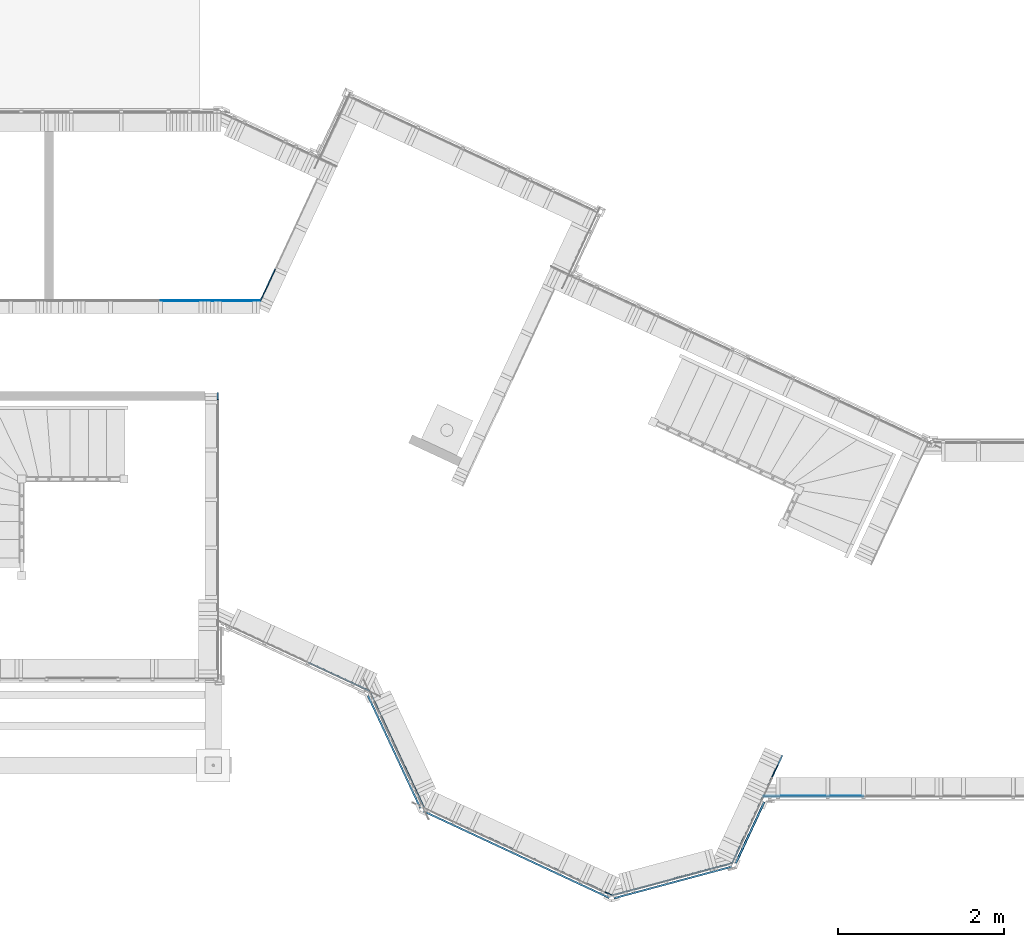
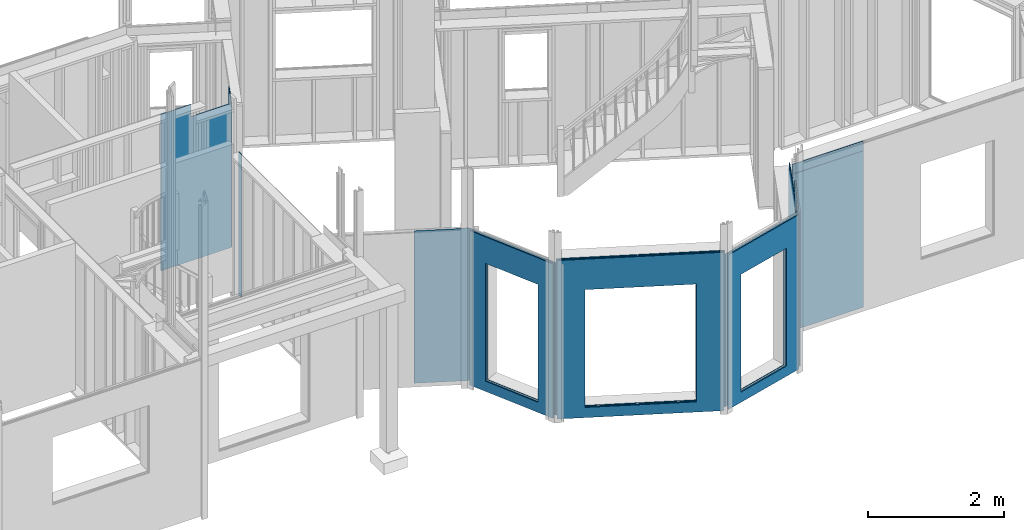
# One storey, part 24 of 34: 19 plates.
"""IFC2X3 building model written with IfcOpenShell, lengths in metres."""

from ifc_helpers import new_model, si_unit, direction, frame, origin_with_axes, place, context, subcontext, project, spatial, faceted_brep, material, element, save


model = new_model("IFC2X3")

# Units and contexts
model_context = context("Model", 3, precision=1e-06, world=origin_with_axes(), true_north=direction((0.0, 1.0, 0.0)))
body_context = subcontext(model_context, "Body", "Model", "MODEL_VIEW")
ifc_project = project(units=[si_unit("LENGTHUNIT", "METRE"), si_unit("AREAUNIT", "SQUARE_METRE"), si_unit("VOLUMEUNIT", "CUBIC_METRE"), si_unit("PLANEANGLEUNIT", "RADIAN")], contexts=[model_context])

# Site, building, storey
site_placement = place(None, origin_with_axes())
site = spatial("IfcSite", under=ifc_project, at=site_placement, CompositionType="ELEMENT")
building_placement = place(site_placement, origin_with_axes())
building = spatial("IfcBuilding", under=site, at=building_placement, Name="Building 1", CompositionType="ELEMENT")
storey_placement = place(building_placement, origin_with_axes())
storey = spatial("IfcBuildingStorey", under=building, at=storey_placement, Name="Rez de chaussée", CompositionType="ELEMENT", Elevation=0.0)

# Plates
ifc_material_1 = material(Name="OSB")
plate_1_placement = place(storey_placement, frame((11.4015713, -1.4854795, 0.005), z_axis=(-0.4226183, -0.9063078, 0.0), x_axis=(0.0, 0.0, 1.0)))
element("IfcPlate", 1, at=plate_1_placement, inside=storey, material=ifc_material_1, Name="Panneau de contreventement MFP", context=body_context, shape_type="Brep", body=[
    faceted_brep([(0.0, 0.0438189, -0.006), (0.0, 0.0438189, 0.006), (2.8, 0.0438189, 0.006), (2.8, 0.0438189, -0.006), (2.8, -0.0438189, -0.006), (0.0, -0.0438189, -0.006), (2.8, -0.0438189, 0.006), (0.0, -0.0438189, 0.006)], [[[0, 1, 2, 3]], [[0, 3, 4, 5]], [[3, 2, 6, 4]], [[2, 1, 7, 6]], [[4, 6, 7, 5]], [[1, 0, 5, 7]]]),
])
plate_2_placement = place(storey_placement, frame((13.8708032, -0.31422, 0.005), z_axis=(0.0, -1.0, 0.0), x_axis=(0.0, 0.0, 1.0)))
element("IfcPlate", 2, at=plate_2_placement, inside=storey, material=ifc_material_1, Name="Panneau de contreventement MFP", context=body_context, shape_type="Brep", body=[
    faceted_brep([(2.8, 0.598, 0.006), (2.8, -0.598, 0.006), (2.8, -0.598, -0.006), (2.8, 0.598, -0.006), (0.0, -0.598, 0.006), (0.0, -0.598, -0.006), (0.0, 0.598, 0.006), (0.0, 0.598, -0.006)], [[[0, 1, 2, 3]], [[2, 1, 4, 5]], [[1, 0, 6, 4]], [[0, 3, 7, 6]], [[5, 4, 6, 7]], [[3, 2, 5, 7]]]),
])
plate_3_placement = place(storey_placement, frame((8.1629561, 1.1235811, 0.005), z_axis=(-0.4226183, -0.9063078, 0.0), x_axis=(0.0, 0.0, 1.0)))
element("IfcPlate", 3, at=plate_3_placement, inside=storey, material=ifc_material_1, Name="Panneau de contreventement MFP", context=body_context, shape_type="Brep", body=[
    faceted_brep([(2.73, -0.4027481, 0.006), (2.73, -0.4027481, -0.006), (2.73, 0.4027481, -0.006), (2.73, 0.4027481, 0.006), (0.0, -0.4027481, -0.006), (0.0, 0.4027481, -0.006), (0.0, -0.4027481, 0.006), (0.0, 0.4027481, 0.006)], [[[0, 1, 2, 3]], [[2, 1, 4, 5]], [[1, 0, 6, 4]], [[0, 3, 7, 6]], [[7, 5, 4, 6]], [[3, 2, 5, 7]]]),
])
plate_4_placement = place(storey_placement, frame((9.1109155, -0.293437, 0.005), z_axis=(-0.9063078, -0.4226183, 0.0), x_axis=(0.0, 0.0, 1.0)))
element("IfcPlate", 4, at=plate_4_placement, inside=storey, material=ifc_material_1, Name="Panneau de contreventement MFP", context=body_context, shape_type="Brep", body=[
    faceted_brep([(2.73, -0.1724997, 0.006), (2.73, -0.1724997, -0.006), (2.73, 0.1724997, -0.006), (2.73, 0.1724997, 0.006), (0.0, -0.1724997, -0.006), (0.0, 0.1724997, -0.006), (0.147, 0.1724997, -0.006), (0.147, 0.1039135, -0.006), (2.255, 0.1039135, -0.006), (2.255, 0.1724997, -0.006), (0.0, -0.1724997, 0.006), (0.147, 0.1039135, 0.006), (2.255, 0.1039135, 0.006), (2.255, 0.1724997, 0.006), (0.147, 0.1724997, 0.006), (0.0, 0.1724997, 0.006)], [[[0, 1, 2, 3]], [[2, 1, 4, 5, 6, 7, 8, 9]], [[1, 0, 10, 4]], [[11, 12, 8, 7]], [[13, 9, 8, 12]], [[6, 14, 11, 7]], [[15, 5, 4, 10]], [[14, 6, 5, 15]], [[0, 3, 13, 12, 11, 14, 15, 10]], [[3, 2, 9, 13]]]),
])
plate_5_placement = place(storey_placement, frame((12.7452721, -1.1560491, 0.005), z_axis=(0.258819, -0.9659258, 0.0), x_axis=(0.0, 0.0, 1.0)))
element("IfcPlate", 5, at=plate_5_placement, inside=storey, material=ifc_material_1, Name="Panneau de contreventement MFP", context=body_context, shape_type="Brep", body=[
    faceted_brep([(2.73, 0.1457542, -0.006), (2.73, 0.1457542, 0.006), (2.73, -0.1457542, 0.006), (2.73, -0.1457542, -0.006), (2.255, 0.1457542, 0.006), (2.255, 0.129341, 0.006), (0.147, 0.129341, 0.006), (0.147, 0.1457542, 0.006), (0.0, 0.1457542, 0.006), (0.0, -0.1457542, 0.006), (2.255, 0.1457542, -0.006), (0.0, 0.1457542, -0.006), (0.0, -0.1457542, -0.006), (2.255, 0.129341, -0.006), (0.147, 0.129341, -0.006), (0.147, 0.1457542, -0.006)], [[[0, 1, 2, 3]], [[2, 1, 4, 5, 6, 7, 8, 9]], [[1, 0, 10, 4]], [[8, 11, 12, 9]], [[3, 2, 9, 12]], [[6, 5, 13, 14]], [[4, 10, 13, 5]], [[15, 7, 6, 14]], [[0, 3, 12, 11, 15, 14, 13, 10]], [[7, 15, 11, 8]]]),
])
plate_6_placement = place(storey_placement, frame((7.3070254, 5.8343805, 0.005), z_axis=(-0.9063078, 0.4226183, 0.0), x_axis=(0.0, 0.0, 1.0)))
element("IfcPlate", 6, at=plate_6_placement, inside=storey, material=ifc_material_1, Name="Panneau de contreventement MFP", context=body_context, shape_type="Brep", body=[
    faceted_brep([(0.0, 0.2093093, -0.006), (0.0, 0.2093093, 0.006), (2.58, 0.2093093, 0.006), (2.58, 0.2093093, -0.006), (2.58, -0.2093093, -0.006), (0.0, -0.2093093, -0.006), (0.0, -0.2093093, 0.006), (2.58, -0.2093093, 0.006)], [[[0, 1, 2, 3]], [[0, 3, 4, 5]], [[1, 0, 5, 6]], [[3, 2, 7, 4]], [[2, 1, 6, 7]], [[4, 7, 6, 5]]]),
])
plate_7_placement = place(storey_placement, frame((10.8162606, -1.2125446, 0.005), z_axis=(-0.4226183, -0.9063078, 0.0), x_axis=(0.0, 0.0, 1.0)))
element("IfcPlate", 7, at=plate_7_placement, inside=storey, material=ifc_material_1, Name="Panneau de contreventement MFP", context=body_context, shape_type="Brep", body=[
    faceted_brep([(2.8, -0.598, -0.006), (2.8, -0.598, 0.006), (0.0, -0.598, 0.006), (0.0, -0.598, -0.006), (0.0, 0.598, -0.006), (0.147, 0.598, -0.006), (0.147, -0.2659405, -0.006), (2.255, -0.2659405, -0.006), (2.255, 0.598, -0.006), (2.8, 0.598, -0.006), (0.0, 0.598, 0.006), (2.255, 0.598, 0.006), (2.8, 0.598, 0.006), (2.255, -0.2659405, 0.006), (0.147, -0.2659405, 0.006), (0.147, 0.598, 0.006)], [[[0, 1, 2, 3]], [[4, 5, 6, 7, 8, 9, 0, 3]], [[10, 4, 3, 2]], [[8, 11, 12, 9]], [[1, 0, 9, 12]], [[11, 8, 7, 13]], [[14, 13, 7, 6]], [[15, 10, 2, 1, 12, 11, 13, 14]], [[5, 15, 14, 6]], [[15, 5, 4, 10]]]),
])
plate_8_placement = place(storey_placement, frame((9.7286912, -0.7054027, 0.005), z_axis=(-0.4226183, -0.9063078, 0.0), x_axis=(0.0, 0.0, 1.0)))
element("IfcPlate", 8, at=plate_8_placement, inside=storey, material=ifc_material_1, Name="Panneau de contreventement MFP", context=body_context, shape_type="Brep", body=[
    faceted_brep([(2.255, 0.1740595, -0.006), (0.147, 0.1740595, -0.006), (0.147, -0.598, -0.006), (0.0, -0.598, -0.006), (0.0, 0.598, -0.006), (2.8, 0.598, -0.006), (2.8, -0.598, -0.006), (2.255, -0.598, -0.006), (0.147, -0.598, 0.006), (0.0, -0.598, 0.006), (0.147, 0.1740595, 0.006), (0.0, 0.598, 0.006), (2.255, 0.1740595, 0.006), (2.255, -0.598, 0.006), (2.8, -0.598, 0.006), (2.8, 0.598, 0.006)], [[[0, 1, 2, 3, 4, 5, 6, 7]], [[2, 8, 9, 3]], [[8, 2, 1, 10]], [[3, 9, 11, 4]], [[9, 8, 10, 12, 13, 14, 15, 11]], [[15, 5, 4, 11]], [[12, 10, 1, 0]], [[7, 13, 12, 0]], [[14, 6, 5, 15]], [[13, 7, 6, 14]]]),
])
ifc_material_2 = material(Name="Mélèze")
plate_9_placement = place(storey_placement, frame((8.8264403, 0.2184247, -0.03), z_axis=(-0.9063078, -0.4226183, 0.0), x_axis=(0.0, 0.0, 1.0)))
element("IfcPlate", 9, at=plate_9_placement, inside=storey, material=ifc_material_2, Name="Bardage", context=body_context, shape_type="Brep", body=[
    faceted_brep([(2.765, 0.7466284, 0.0105), (2.765, -0.7466284, 0.0105), (2.765, -0.7466284, -0.0105), (2.765, 0.7466284, -0.0105), (0.0, -0.7466284, 0.0105), (0.0, -0.7466284, -0.0105), (0.0, 0.7466284, 0.0105), (2.29, -0.4802152, 0.0105), (0.182, -0.4802152, 0.0105), (0.182, 0.4597848, 0.0105), (2.29, 0.4597848, 0.0105), (0.0, 0.7466284, -0.0105), (0.182, 0.4597848, -0.0105), (0.182, -0.4802152, -0.0105), (2.29, -0.4802152, -0.0105), (2.29, 0.4597848, -0.0105)], [[[0, 1, 2, 3]], [[2, 1, 4, 5]], [[1, 0, 6, 4], [7, 8, 9, 10]], [[3, 2, 5, 11], [12, 13, 14, 15]], [[4, 6, 11, 5]], [[10, 9, 12, 15]], [[7, 10, 15, 14]], [[8, 7, 14, 13]], [[9, 8, 13, 12]], [[0, 3, 11, 6]]]),
])
plate_10_placement = place(storey_placement, frame((6.702, 4.4932372, 0.005), z_axis=(1.0, 0.0, 0.0), x_axis=(0.0, 0.0, 1.0)))
element("IfcPlate", 10, at=plate_10_placement, inside=storey, material=ifc_material_1, Name="Panneau de contreventement MFP", context=body_context, shape_type="Brep", body=[
    faceted_brep([(0.0, 0.0417628, -0.006), (0.0, 0.0417628, 0.006), (2.56, 0.0417628, 0.006), (2.56, 0.0417628, -0.006), (2.56, -0.0417628, 0.006), (2.56, -0.0417628, -0.006), (0.0, -0.0417628, 0.006), (0.0, -0.0417628, -0.006)], [[[0, 1, 2, 3]], [[3, 2, 4, 5]], [[2, 1, 6, 4]], [[1, 0, 7, 6]], [[0, 3, 5, 7]], [[5, 4, 6, 7]]]),
])
plate_11_placement = place(storey_placement, frame((13.1049522, -0.7521779, -0.03), z_axis=(0.9063078, -0.4226183, 0.0), x_axis=(0.0, 0.0, 1.0)))
element("IfcPlate", 11, at=plate_11_placement, inside=storey, material=ifc_material_2, Name="Bardage", context=body_context, shape_type="Brep", body=[
    faceted_brep([(2.765, -0.4047536, -0.0105), (2.765, 0.4047536, -0.0105), (2.765, 0.4047536, 0.0105), (2.765, -0.4047536, 0.0105), (0.0, 0.4047536, -0.0105), (0.0, 0.4047536, 0.0105), (0.0, -0.4047536, -0.0105), (0.0, -0.4047536, 0.0105)], [[[0, 1, 2, 3]], [[2, 1, 4, 5]], [[1, 0, 6, 4]], [[3, 2, 5, 7]], [[6, 7, 5, 4]], [[0, 3, 7, 6]]]),
])
plate_12_placement = place(storey_placement, frame((13.8708032, -0.31422, 2.809), z_axis=(0.0, -1.0, 0.0), x_axis=(0.0, 0.0, 1.0)))
element("IfcPlate", 12, at=plate_12_placement, inside=storey, material=ifc_material_1, Name="Panneau de contreventement MFP", context=body_context, shape_type="Brep", body=[
    faceted_brep([(0.0, 0.598, 0.006), (0.0, 0.598, -0.006), (0.0, -0.598, -0.006), (0.0, -0.598, 0.006), (0.171, 0.598, -0.006), (0.171, -0.598, -0.006), (0.171, 0.598, 0.006), (0.171, -0.598, 0.006)], [[[0, 1, 2, 3]], [[2, 1, 4, 5]], [[1, 0, 6, 4]], [[0, 3, 7, 6]], [[7, 5, 4, 6]], [[3, 2, 5, 7]]]),
])
plate_13_placement = place(storey_placement, frame((12.1764576, -1.3514264, -0.03), z_axis=(0.258819, -0.9659258, 0.0), x_axis=(0.0, 0.0, 1.0)))
element("IfcPlate", 13, at=plate_13_placement, inside=storey, material=ifc_material_2, Name="Bardage", context=body_context, shape_type="Brep", body=[
    faceted_brep([(2.765, 0.7307542, 0.0105), (2.765, -0.7307542, 0.0105), (2.765, -0.7307542, -0.0105), (2.765, 0.7307542, -0.0105), (0.0, -0.7307542, 0.0105), (0.0, -0.7307542, -0.0105), (0.0, 0.7307542, 0.0105), (2.29, -0.470659, 0.0105), (0.182, -0.470659, 0.0105), (0.182, 0.469341, 0.0105), (2.29, 0.469341, 0.0105), (0.0, 0.7307542, -0.0105), (2.29, -0.470659, -0.0105), (2.29, 0.469341, -0.0105), (0.182, 0.469341, -0.0105), (0.182, -0.470659, -0.0105)], [[[0, 1, 2, 3]], [[2, 1, 4, 5]], [[1, 0, 6, 4], [7, 8, 9, 10]], [[3, 2, 5, 11], [12, 13, 14, 15]], [[4, 6, 11, 5]], [[10, 9, 14, 13]], [[7, 10, 13, 12]], [[8, 7, 12, 15]], [[9, 8, 15, 14]], [[0, 3, 11, 6]]]),
])
plate_14_placement = place(storey_placement, frame((6.6151297, 5.6412176, 0.005), z_axis=(0.0, 1.0, 0.0), x_axis=(0.0, 0.0, 1.0)))
element("IfcPlate", 14, at=plate_14_placement, inside=storey, material=ifc_material_1, Name="Panneau de contreventement MFP", context=body_context, shape_type="Brep", body=[
    faceted_brep([(2.8, -0.0891297, -0.006), (2.58, -0.0891297, -0.006), (2.58, -0.0891297, 0.006), (2.8, -0.0891297, 0.006), (2.8, -0.598, 0.006), (2.8, -0.598, -0.006), (2.58, 0.598, 0.006), (2.58, 0.598, -0.006), (0.0, 0.598, -0.006), (0.0, 0.598, 0.006), (0.0, -0.598, 0.006), (0.0, -0.598, -0.006)], [[[0, 1, 2, 3]], [[0, 3, 4, 5]], [[6, 7, 8, 9]], [[3, 2, 6, 9, 10, 4]], [[6, 2, 1, 7]], [[11, 10, 9, 8]], [[1, 0, 5, 11, 8, 7]], [[5, 4, 10, 11]]]),
])
plate_15_placement = place(storey_placement, frame((10.2941975, -1.0148928, -0.03), z_axis=(-0.4226183, -0.9063078, 0.0), x_axis=(0.0, 0.0, 1.0)))
element("IfcPlate", 15, at=plate_15_placement, inside=storey, material=ifc_material_2, Name="Bardage", context=body_context, shape_type="Brep", body=[
    faceted_brep([(2.835, 1.2313189, 0.0105), (2.835, 1.2313189, -0.0105), (0.0, 1.2313189, -0.0105), (0.0, 1.2313189, 0.0105), (2.835, -1.2313189, 0.0105), (0.0, -1.2313189, 0.0105), (2.29, -0.8226215, 0.0105), (0.182, -0.8226215, 0.0105), (0.182, 0.8173785, 0.0105), (2.29, 0.8173785, 0.0105), (2.835, -1.2313189, -0.0105), (0.0, -1.2313189, -0.0105), (2.29, -0.8226215, -0.0105), (2.29, 0.8173785, -0.0105), (0.182, 0.8173785, -0.0105), (0.182, -0.8226215, -0.0105)], [[[0, 1, 2, 3]], [[4, 0, 3, 5], [6, 7, 8, 9]], [[10, 4, 5, 11]], [[11, 2, 1, 10], [12, 13, 14, 15]], [[2, 11, 5, 3]], [[0, 4, 10, 1]], [[14, 13, 9, 8]], [[15, 14, 8, 7]], [[12, 15, 7, 6]], [[13, 12, 6, 9]]]),
])
plate_16_placement = place(storey_placement, frame((12.9372037, -1.0137184, 0.005), z_axis=(0.9063078, -0.4226183, 0.0), x_axis=(0.0, 0.0, 1.0)))
element("IfcPlate", 16, at=plate_16_placement, inside=storey, material=ifc_material_1, Name="Panneau de contreventement MFP", context=body_context, shape_type="Brep", body=[
    faceted_brep([(2.73, 0.1118239, -0.006), (2.73, 0.1118239, 0.006), (2.73, -0.1118239, 0.006), (2.73, -0.1118239, -0.006), (0.0, 0.1118239, 0.006), (0.0, 0.1118239, -0.006), (0.0, -0.1118239, -0.006), (0.0, -0.1118239, 0.006)], [[[0, 1, 2, 3]], [[4, 5, 6, 7]], [[3, 6, 5, 0]], [[2, 7, 6, 3]], [[1, 4, 7, 2]], [[0, 5, 4, 1]]]),
])
plate_17_placement = place(storey_placement, frame((8.7835977, 0.4084982, 0.005), z_axis=(-0.9063078, -0.4226183, 0.0), x_axis=(0.0, 0.0, 1.0)))
element("IfcPlate", 17, at=plate_17_placement, inside=storey, material=ifc_material_1, Name="Panneau de contreventement MFP", context=body_context, shape_type="Brep", body=[
    faceted_brep([(2.73, -0.598, 0.006), (2.73, -0.598, -0.006), (2.73, 0.598, -0.006), (2.73, 0.598, 0.006), (2.255, -0.598, -0.006), (2.255, 0.2694138, -0.006), (0.147, 0.2694138, -0.006), (0.147, -0.598, -0.006), (0.0, -0.598, -0.006), (0.0, 0.598, -0.006), (2.255, -0.598, 0.006), (2.255, 0.2694138, 0.006), (0.147, -0.598, 0.006), (0.0, -0.598, 0.006), (0.0, 0.598, 0.006), (0.147, 0.2694138, 0.006)], [[[0, 1, 2, 3]], [[2, 1, 4, 5, 6, 7, 8, 9]], [[1, 0, 10, 4]], [[4, 10, 11, 5]], [[7, 12, 13, 8]], [[8, 13, 14, 9]], [[11, 15, 6, 5]], [[12, 7, 6, 15]], [[0, 3, 14, 13, 12, 15, 11, 10]], [[3, 2, 9, 14]]]),
])
plate_18_placement = place(storey_placement, frame((12.022997, -1.3495821, 0.005), z_axis=(0.258819, -0.9659258, 0.0), x_axis=(0.0, 0.0, 1.0)))
element("IfcPlate", 18, at=plate_18_placement, inside=storey, material=ifc_material_1, Name="Panneau de contreventement MFP", context=body_context, shape_type="Brep", body=[
    faceted_brep([(2.73, -0.598, -0.006), (2.73, 0.598, -0.006), (2.73, 0.598, 0.006), (2.73, -0.598, 0.006), (0.0, 0.598, -0.006), (0.0, 0.598, 0.006), (2.255, -0.598, -0.006), (2.255, 0.3215867, -0.006), (0.147, 0.3215867, -0.006), (0.147, -0.598, -0.006), (0.0, -0.598, -0.006), (0.147, -0.598, 0.006), (0.0, -0.598, 0.006), (2.255, -0.598, 0.006), (2.255, 0.3215867, 0.006), (0.147, 0.3215867, 0.006)], [[[0, 1, 2, 3]], [[2, 1, 4, 5]], [[1, 0, 6, 7, 8, 9, 10, 4]], [[9, 11, 12, 10]], [[10, 12, 5, 4]], [[0, 3, 13, 6]], [[6, 13, 14, 7]], [[14, 15, 8, 7]], [[11, 9, 8, 15]], [[3, 2, 5, 12, 11, 15, 14, 13]]]),
])
plate_19_placement = place(storey_placement, frame((13.2388787, -0.3667742, 0.005), z_axis=(0.9063078, -0.4226183, 0.0), x_axis=(0.0, 0.0, 1.0)))
element("IfcPlate", 19, at=plate_19_placement, inside=storey, material=ifc_material_1, Name="Panneau de contreventement MFP", context=body_context, shape_type="Brep", body=[
    faceted_brep([(2.52, -0.598, 0.006), (2.52, -0.598, -0.006), (2.52, -0.463, -0.006), (2.52, -0.463, 0.006), (0.0, -0.598, 0.006), (0.0, -0.598, -0.006), (2.73, -0.463, -0.006), (2.73, -0.463, 0.006), (0.0, 0.598, -0.006), (2.73, 0.598, -0.006), (0.0, -0.3101483, -0.006), (0.04, -0.3101483, -0.006), (0.04, -0.0618095, -0.006), (0.0, -0.0618095, -0.006), (0.0, -0.3101483, 0.006), (2.73, 0.598, 0.006), (0.0, 0.598, 0.006), (0.0, -0.0618095, 0.006), (0.04, -0.0618095, 0.006), (0.04, -0.3101483, 0.006)], [[[0, 1, 2, 3]], [[1, 0, 4, 5]], [[2, 6, 7, 3]], [[8, 9, 6, 2, 1, 5, 10, 11, 12, 13]], [[14, 10, 5, 4]], [[15, 16, 17, 18, 19, 14, 4, 0, 3, 7]], [[9, 15, 7, 6]], [[16, 15, 9, 8]], [[18, 17, 13, 12]], [[11, 10, 14, 19]], [[19, 18, 12, 11]], [[16, 8, 13, 17]]]),
])

save(model, "model.ifc")
